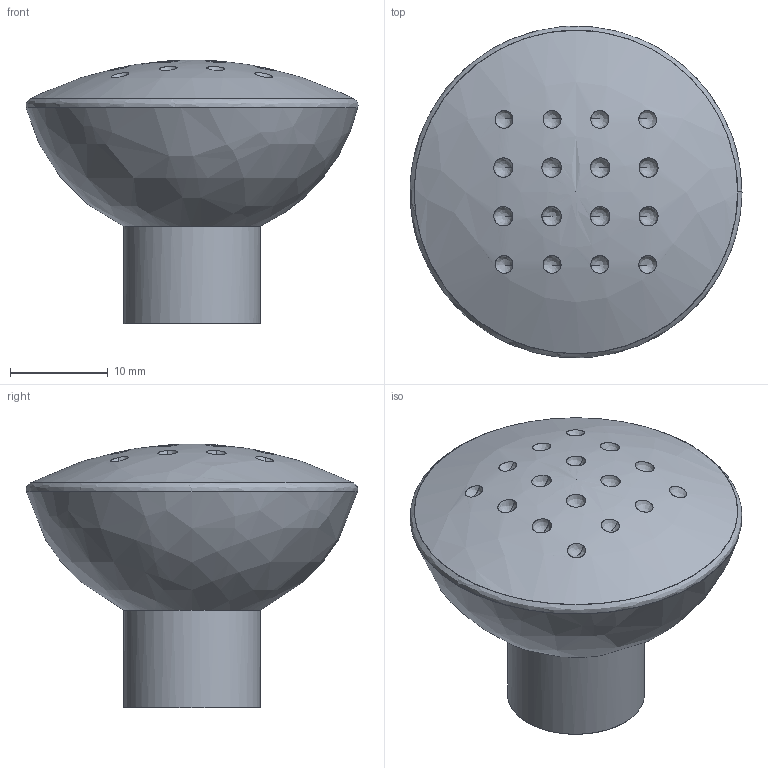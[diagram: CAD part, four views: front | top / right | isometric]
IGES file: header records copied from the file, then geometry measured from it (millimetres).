
Start section: C
Global section: file name: 0873-34.igs; native system: By Siemens PLM Incorporated; preprocessor: XPlus GENERIC/IGES 16.0.42; author: Author; organization: Title; date: 20231129.093353; units: millimetre
Bounding box: 33.98 x 33.97 x 27 mm (x, y, z)
Surface area: 3140.9 mm2 (no closed solid volume)
Topology: 0 solids, 0 shells, 23 faces, 149 edges, 132 vertices
Faces by surface type: bspline 23
